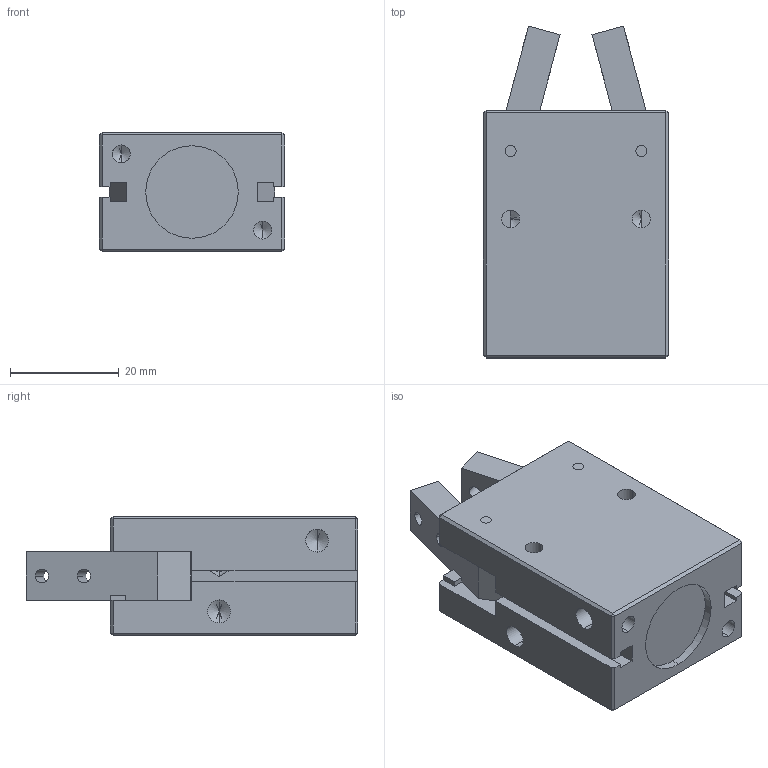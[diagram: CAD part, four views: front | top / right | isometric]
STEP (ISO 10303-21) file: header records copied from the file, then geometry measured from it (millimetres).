
FILE_DESCRIPTION (( 'STEP AP203' ), '1' );
FILE_NAME ('GDS.16-CLOSE.STEP', '2011-10-20T11:46:48', ( 'Christophe Gaillard' ), ( 'SGA' ), 'SwSTEP 2.0', 'SolidWorks 2010', '' );
FILE_SCHEMA (( 'CONFIG_CONTROL_DESIGN' ));
Products named in the file (6): Pièce5; GDS.16-CLOSE; Pièce7; CORPS.GDS.16; Pièce4; MORS
Assembly tree (8 placements, depth 2):
  GDS.16-CLOSE
    Pièce5  x2
    MORS  x2
    Pièce7  x2
    Pièce4
    CORPS.GDS.16
Bounding box: 34 x 60.97 x 22 mm (x, y, z)
Volume: 30928.5 mm3; surface area: 12902 mm2
Topology: 8 solids, 8 shells, 580 faces, 1549 edges, 1013 vertices
Faces by surface type: plane 302, bspline 215, cylinder 48, cone 15
Entity records: 32554 total; most frequent: CARTESIAN_POINT 19481, ORIENTED_EDGE 2936, DIRECTION 1810, EDGE_CURVE 1468, VERTEX_POINT 969, LINE 950, VECTOR 950, EDGE_LOOP 615
